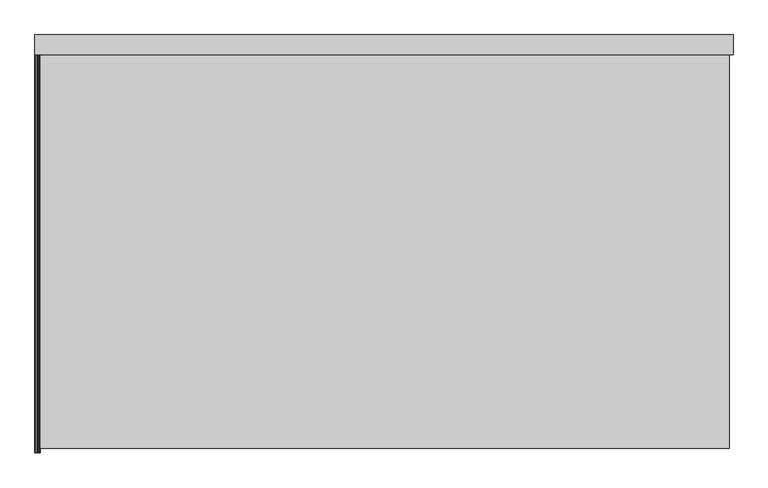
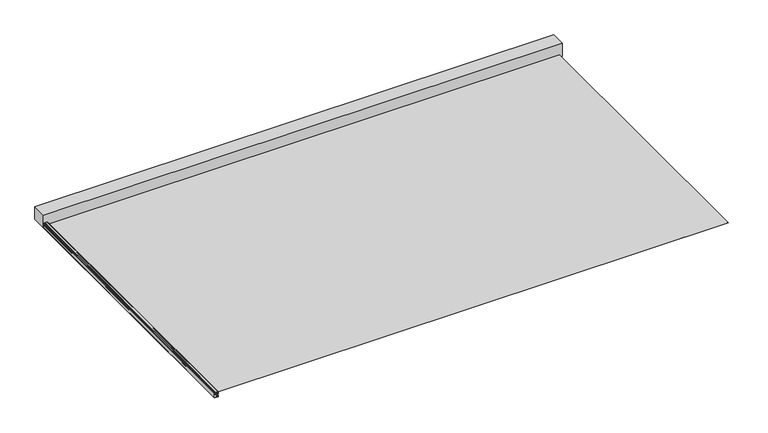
"""IFC4 building model written with IfcOpenShell, lengths in millimetres: proxy geometry, ZIP135 + 4 meter bred : ZIP135 + 4 meter bred."""

from ifc_helpers import new_model, si_unit, frame, origin, origin_with_axes, place, context, project, spatial, polyline, circle_curve, outline, extrude, source, transform, mapped, element, save
from ifc_brep_helpers import plane_surface, cylinder_surface, revolved_surface, advanced_brep


def generic_models_8a4777b7(model_context):
    return source(origin(), model_context, "Body", "SolidModel", [
        advanced_brep(
        [(-2472.6, 2.5, 31.4678714), (-2473.0769696, 2.5, 30.8178714), (-2472.6, 2.5, 30.1678714), (-2464.1023957, 2.5, 30.1678714), (-2463.1024072, 2.5, 31.1726628), (-2463.7529205, 2.5, 46.7031883), (-2465.6666067, 2.5, 48.5438844), (-2498.8706367, 2.5, 48.0351336), (-2499.8, 2.5, 47.0376315), (-2499.8, 2.5, 45.9678714), (-2498.5, 2.5, 45.3433716), (-2498.5, 2.5, 46.7579933), (-2480.6187174, 2.5, 47.4700414), (-2479.1649596, 2.5, 46.5616328), (-2478.4, 2.5, 46.9856568), (-2477.9003699, 2.5, 47.4844201), (-2471.3890908, 2.5, 47.418256), (-2468.8, 2.5, 46.5762226), (-2468.8, 2.5, 43.1361571), (-2468.8, 2.5, 39.6678714), (-2469.3, 2.5, 39.1678714), (-2478.9, 2.5, 39.1678714), (-2479.3769696, 2.5, 38.5178714), (-2478.9, 2.5, 37.8678714), (-2468.8, 2.5, 37.8678714), (-2468.8, 2.5, 31.9678714), (-2469.3, 2.5, 31.4678714), (-2472.6, 2857.0, 31.4678714), (-2469.3, 2857.0, 31.4678714), (-2468.8, 2857.0, 31.9678714), (-2468.8, 2857.0, 37.8678714), (-2478.9, 2857.0, 37.8678714), (-2479.3769696, 2857.0, 38.5178714), (-2478.9, 2857.0, 39.1678714), (-2469.3, 2857.0, 39.1678714), (-2468.8, 2857.0, 39.6678714), (-2468.8, 2857.0, 43.1361571), (-2468.8, 2857.0, 46.5762226), (-2471.3890908, 2857.0, 47.418256), (-2477.9003699, 2857.0, 47.4844201), (-2478.3999988, 2857.0, 46.9856568), (-2479.1649596, 2857.0, 46.5616328), (-2480.6187174, 2857.0, 47.4700414), (-2498.5, 2857.0, 46.7579933), (-2498.5, 2857.0, 45.3433716), (-2499.8, 2857.0, 45.9678714), (-2499.8, 2857.0, 47.0376315), (-2498.8706367, 2857.0, 48.0351336), (-2465.6666067, 2857.0, 48.5438844), (-2463.7529205, 2857.0, 46.7031883), (-2463.1024072, 2857.0, 31.1726628), (-2464.1023957, 2857.0, 30.1678714), (-2472.6, 2857.0, 30.1678714), (-2473.0769696, 2857.0, 30.8178714)],
        [
            (0, 1, circle_curve(frame((-2472.6, 2.5, 30.9678714), z_axis=(0.0, -1.0, 0.0), x_axis=(1.0, 0.0, 0.0)), 0.5)),
            (1, 2, circle_curve(frame((-2472.6, 2.5, 30.6678714), z_axis=(0.0, -1.0, 0.0), x_axis=(1.0, 0.0, 0.0)), 0.5)),
            (2, 3),
            (3, 4, circle_curve(frame((-2464.1023957, 2.5, 31.1678714), z_axis=(0.0, -1.0, 0.0), x_axis=(1.0, 0.0, 0.0)), 1.0)),
            (4, 5, circle_curve(frame((-2672.80625, 2.5, 30.1678714), z_axis=(0.0, -1.0, 0.0), x_axis=(1.0, 0.0, 0.0)), 209.70625)),
            (5, 6, circle_curve(frame((-2465.7466935, 2.5, 46.5454885), z_axis=(0.0, -1.0, 0.0), x_axis=(1.0, 0.0, 0.0)), 2.0)),
            (6, 7, circle_curve(frame((-2477.6796188, 2.5, -251.2154984), z_axis=(0.0, -1.0, 0.0), x_axis=(1.0, 0.0, 0.0)), 300.0)),
            (7, 8, circle_curve(frame((-2498.8, 2.5, 47.0376315), z_axis=(0.0, -1.0, 0.0), x_axis=(1.0, 0.0, 0.0)), 1.0)),
            (8, 9),
            (9, 10, circle_curve(frame((-2499.0, 2.5, 45.9678714), z_axis=(0.0, -1.0, 0.0), x_axis=(1.0, 0.0, 0.0)), 0.8)),
            (10, 11),
            (11, 12, circle_curve(frame((-2477.6796188, 2.5, -251.2154984), z_axis=(0.0, 1.0, 0.0), x_axis=(1.0, 0.0, 0.0)), 298.7)),
            (12, 13),
            (13, 14, circle_curve(frame((-2478.9, 2.5, 46.9856568), z_axis=(0.0, -1.0, 0.0), x_axis=(1.0, 0.0, 0.0)), 0.5)),
            (14, 15, circle_curve(frame((-2477.9000004, 2.5, 46.9844202), z_axis=(0.0, 1.0, 0.0), x_axis=(1.0, 0.0, 0.0)), 0.5)),
            (15, 16, circle_curve(frame((-2477.6796188, 2.5, -251.2154984), z_axis=(0.0, 1.0, 0.0), x_axis=(1.0, 0.0, 0.0)), 298.7)),
            (16, 17, circle_curve(frame((-2469.6, 2.5, 48.5178714), z_axis=(0.0, -1.0, 0.0), x_axis=(1.0, 0.0, 0.0)), 2.1)),
            (17, 18),
            (18, 19),
            (19, 20, circle_curve(frame((-2469.3, 2.5, 39.6678714), z_axis=(0.0, 1.0, 0.0), x_axis=(1.0, 0.0, 0.0)), 0.5)),
            (20, 21),
            (21, 22, circle_curve(frame((-2478.9, 2.5, 38.6678714), z_axis=(0.0, -1.0, 0.0), x_axis=(1.0, 0.0, 0.0)), 0.5)),
            (22, 23, circle_curve(frame((-2478.9, 2.5, 38.3678714), z_axis=(0.0, -1.0, 0.0), x_axis=(1.0, 0.0, 0.0)), 0.5)),
            (23, 24),
            (24, 25),
            (25, 26, circle_curve(frame((-2469.3, 2.5, 31.9678714), z_axis=(0.0, 1.0, 0.0), x_axis=(1.0, 0.0, 0.0)), 0.5)),
            (26, 0),
            (27, 28),
            (28, 29, circle_curve(frame((-2469.3, 2857.0, 31.9678714), z_axis=(0.0, -1.0, 0.0), x_axis=(1.0, 0.0, 0.0)), 0.5)),
            (29, 30),
            (30, 31),
            (31, 32, circle_curve(frame((-2478.9, 2857.0, 38.3678714), z_axis=(0.0, 1.0, 0.0), x_axis=(1.0, 0.0, 0.0)), 0.5)),
            (32, 33, circle_curve(frame((-2478.9, 2857.0, 38.6678714), z_axis=(0.0, 1.0, 0.0), x_axis=(1.0, 0.0, 0.0)), 0.5)),
            (33, 34),
            (34, 35, circle_curve(frame((-2469.3, 2857.0, 39.6678714), z_axis=(0.0, -1.0, 0.0), x_axis=(1.0, 0.0, 0.0)), 0.5)),
            (35, 36),
            (36, 37),
            (37, 38, circle_curve(frame((-2469.6, 2857.0, 48.5178714), z_axis=(0.0, 1.0, 0.0), x_axis=(1.0, 0.0, 0.0)), 2.1)),
            (38, 39, circle_curve(frame((-2477.6796188, 2857.0, -251.2154984), z_axis=(0.0, -1.0, 0.0), x_axis=(1.0, 0.0, 0.0)), 298.7)),
            (39, 40, circle_curve(frame((-2477.9000004, 2857.0, 46.9844202), z_axis=(0.0, -1.0, 0.0), x_axis=(1.0, 0.0, 0.0)), 0.5)),
            (40, 41, circle_curve(frame((-2478.9, 2857.0, 46.9856568), z_axis=(0.0, 1.0, 0.0), x_axis=(1.0, 0.0, 0.0)), 0.5)),
            (41, 42),
            (42, 43, circle_curve(frame((-2477.6796188, 2857.0, -251.2154984), z_axis=(0.0, -1.0, 0.0), x_axis=(1.0, 0.0, 0.0)), 298.7)),
            (43, 44),
            (44, 45, circle_curve(frame((-2499.0, 2857.0, 45.9678714), z_axis=(0.0, 1.0, 0.0), x_axis=(1.0, 0.0, 0.0)), 0.8)),
            (45, 46),
            (46, 47, circle_curve(frame((-2498.8, 2857.0, 47.0376315), z_axis=(0.0, 1.0, 0.0), x_axis=(1.0, 0.0, 0.0)), 1.0)),
            (47, 48, circle_curve(frame((-2477.6796188, 2857.0, -251.2154984), z_axis=(0.0, 1.0, 0.0), x_axis=(1.0, 0.0, 0.0)), 300.0)),
            (48, 49, circle_curve(frame((-2465.7466935, 2857.0, 46.5454885), z_axis=(0.0, 1.0, 0.0), x_axis=(1.0, 0.0, 0.0)), 2.0)),
            (49, 50, circle_curve(frame((-2672.80625, 2857.0, 30.1678714), z_axis=(0.0, 1.0, 0.0), x_axis=(1.0, 0.0, 0.0)), 209.70625)),
            (50, 51, circle_curve(frame((-2464.1023957, 2857.0, 31.1678714), z_axis=(0.0, 1.0, 0.0), x_axis=(1.0, 0.0, 0.0)), 1.0)),
            (51, 52),
            (52, 53, circle_curve(frame((-2472.6, 2857.0, 30.6678714), z_axis=(0.0, 1.0, 0.0), x_axis=(1.0, 0.0, 0.0)), 0.5)),
            (53, 27, circle_curve(frame((-2472.6, 2857.0, 30.9678714), z_axis=(0.0, 1.0, 0.0), x_axis=(1.0, 0.0, 0.0)), 0.5)),
            (26, 28),
            (27, 0),
            (25, 29),
            (24, 30),
            (23, 31),
            (22, 32),
            (21, 33),
            (20, 34),
            (19, 35),
            (18, 36),
            (17, 37),
            (16, 38),
            (15, 39),
            (14, 40),
            (13, 41),
            (12, 42),
            (11, 43),
            (10, 44),
            (9, 45),
            (8, 46),
            (7, 47),
            (6, 48),
            (5, 49),
            (4, 50),
            (3, 51),
            (2, 52),
            (1, 53),
        ],
        [
            plane_surface(frame((-2472.1, 2.5, 30.9678714), z_axis=(0.0, -1.0, 0.0), x_axis=(0.0, 0.0, 1.0))),
            plane_surface(frame((-2472.1, 2857.0, 30.9678714), z_axis=(0.0, 1.0, 0.0), x_axis=(0.0, 0.0, -1.0))),
            plane_surface(frame((-2469.3, 2.5, 31.4678714), z_axis=(0.0, 0.0, 1.0), x_axis=(0.0, 1.0, 0.0))),
            revolved_surface(polyline([(-2468.8, 2857.0, 31.9678714), (-2468.8, 2.5, 31.9678714)]), (-2469.3, 2857.0, 31.9678714), (0.0, 1.0, 0.0)),
            plane_surface(frame((-2468.8, 2.5, 37.8678714), z_axis=(-1.0, 0.0, 0.0), x_axis=(0.0, 1.0, 0.0))),
            plane_surface(frame((-2478.9, 2.5, 37.8678714), z_axis=(0.0, 0.0, -1.0), x_axis=(0.0, 1.0, 0.0))),
            cylinder_surface(frame((-2478.9, 2857.0, 38.3678714), z_axis=(0.0, -1.0, 0.0), x_axis=(1.0, 0.0, 0.0)), 0.5),
            cylinder_surface(frame((-2478.9, 2857.0, 38.6678714), z_axis=(0.0, -1.0, 0.0), x_axis=(1.0, 0.0, 0.0)), 0.5),
            plane_surface(frame((-2469.3, 2.5, 39.1678714), z_axis=(0.0, 0.0, 1.0), x_axis=(0.0, 1.0, 0.0))),
            revolved_surface(polyline([(-2468.8, 2857.0, 39.6678714), (-2468.8, 2.5, 39.6678714)]), (-2469.3, 2857.0, 39.6678714), (0.0, 1.0, 0.0)),
            plane_surface(frame((-2468.8, 2.5, 43.1361571), z_axis=(-1.0, 0.0, 0.0), x_axis=(0.0, 1.0, 0.0))),
            plane_surface(frame((-2468.8, 2.5, 46.5762226), z_axis=(-1.0, 0.0, 0.0), x_axis=(0.0, 1.0, 0.0))),
            cylinder_surface(frame((-2469.6, 2857.0, 48.5178714), z_axis=(0.0, -1.0, 0.0), x_axis=(1.0, 0.0, 0.0)), 2.1),
            revolved_surface(polyline([(-2178.9796188, 2857.0, -251.2154984), (-2178.9796188, 2.5, -251.2154984)]), (-2477.6796188, 2857.0, -251.2154984), (0.0, 1.0, 0.0)),
            revolved_surface(polyline([(-2477.4000004, 2857.0, 46.9844202), (-2477.4000004, 2.5, 46.9844202)]), (-2477.9000004, 2857.0, 46.9844202), (0.0, 1.0, 0.0)),
            cylinder_surface(frame((-2478.9, 2857.0, 46.9856568), z_axis=(0.0, -1.0, 0.0), x_axis=(1.0, 0.0, 0.0)), 0.5),
            plane_surface(frame((-2480.6187174, 2.5, 47.4700414), z_axis=(-0.529919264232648, 0.0, -0.848048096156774), x_axis=(0.0, 1.0, 0.0))),
            plane_surface(frame((-2498.5, 2.5, 45.3433716), z_axis=(1.0, 0.0, 0.0), x_axis=(0.0, 1.0, 0.0))),
            cylinder_surface(frame((-2499.0, 2857.0, 45.9678714), z_axis=(0.0, -1.0, 0.0), x_axis=(1.0, 0.0, 0.0)), 0.8),
            plane_surface(frame((-2499.8, 2.5, 47.0376315), z_axis=(-1.0, 0.0, 0.0), x_axis=(0.0, 1.0, 0.0))),
            cylinder_surface(frame((-2498.8, 2857.0, 47.0376315), z_axis=(0.0, -1.0, 0.0), x_axis=(1.0, 0.0, 0.0)), 1.0),
            cylinder_surface(frame((-2477.6796188, 2857.0, -251.2154984), z_axis=(0.0, -1.0, 0.0), x_axis=(1.0, 0.0, 0.0)), 300.0),
            cylinder_surface(frame((-2465.7466935, 2857.0, 46.5454885), z_axis=(0.0, -1.0, 0.0), x_axis=(1.0, 0.0, 0.0)), 2.0),
            cylinder_surface(frame((-2672.80625, 2857.0, 30.1678714), z_axis=(0.0, -1.0, 0.0), x_axis=(1.0, 0.0, 0.0)), 209.70625),
            cylinder_surface(frame((-2464.1023957, 2857.0, 31.1678714), z_axis=(0.0, -1.0, 0.0), x_axis=(1.0, 0.0, 0.0)), 1.0),
            plane_surface(frame((-2472.6, 2.5, 30.1678714), z_axis=(0.0, 0.0, -1.0), x_axis=(0.0, 1.0, 0.0))),
            cylinder_surface(frame((-2472.6, 2857.0, 30.6678714), z_axis=(0.0, -1.0, 0.0), x_axis=(1.0, 0.0, 0.0)), 0.5),
            cylinder_surface(frame((-2472.6, 2857.0, 30.9678714), z_axis=(0.0, -1.0, 0.0), x_axis=(1.0, 0.0, 0.0)), 0.5),
        ],
        [
            (0, [[1, 2, 3, 4, 5, 6, 7, 8, 9, 10, 11, 12, 13, 14, 15, 16, 17, 18, 19, 20, 21, 22, 23, 24, 25, 26, 27]]),
            (1, [[28, 29, 30, 31, 32, 33, 34, 35, 36, 37, 38, 39, 40, 41, 42, 43, 44, 45, 46, 47, 48, 49, 50, 51, 52, 53, 54]]),
            (2, [[-27, 55, -28, 56]]),
            (3, [[-26, 57, -29, -55]]),
            (4, [[-25, 58, -30, -57]]),
            (5, [[-24, 59, -31, -58]]),
            (6, [[-23, 60, -32, -59]]),
            (7, [[-22, 61, -33, -60]]),
            (8, [[-21, 62, -34, -61]]),
            (9, [[-20, 63, -35, -62]]),
            (10, [[-19, 64, -36, -63]]),
            (11, [[-18, 65, -37, -64]]),
            (12, [[-17, 66, -38, -65]]),
            (13, [[-16, 67, -39, -66]]),
            (14, [[-15, 68, -40, -67]]),
            (15, [[-14, 69, -41, -68]]),
            (16, [[-13, 70, -42, -69]]),
            (13, [[-12, 71, -43, -70]]),
            (17, [[-11, 72, -44, -71]]),
            (18, [[-10, 73, -45, -72]]),
            (19, [[-9, 74, -46, -73]]),
            (20, [[-8, 75, -47, -74]]),
            (21, [[-7, 76, -48, -75]]),
            (22, [[-6, 77, -49, -76]]),
            (23, [[-5, 78, -50, -77]]),
            (24, [[-4, 79, -51, -78]]),
            (25, [[-3, 80, -52, -79]]),
            (26, [[-2, 81, -53, -80]]),
            (27, [[-1, -56, -54, -81]]),
        ],
    ),
        advanced_brep(
        [(-2462.8295553, 2.5, 13.8913237), (-2463.8, 2.5, 14.65), (-2472.3, 2.5, 14.65), (-2472.7769696, 2.5, 14.0), (-2472.3, 2.5, 13.35), (-2469.0, 2.5, 13.35), (-2468.5, 2.5, 12.85), (-2468.5, 2.5, 8.2), (-2469.5, 2.5, 7.2), (-2483.8, 2.5, 7.2), (-2483.8, 2.5, 20.6143806), (-2483.8, 2.5, 36.6), (-2482.8, 2.5, 37.6), (-2480.7, 2.5, 37.6), (-2479.724617, 2.5, 38.3794826), (-2479.724617, 2.5, 39.3), (-2469.3, 2.5, 39.3), (-2468.8101021, 2.5, 40.5), (-2478.6, 2.5, 40.5), (-2479.6, 2.5, 41.5), (-2479.6, 2.5, 43.7), (-2478.6, 2.5, 44.7), (-2469.3, 2.5, 44.7), (-2468.8101021, 2.5, 45.9), (-2479.1, 2.5, 45.9), (-2481.077761, 2.5, 43.6025751), (-2481.803125, 2.5, 43.0671573), (-2484.8151163, 2.5, 42.5032419), (-2484.0348837, 2.5, 41.727847), (-2481.7801617, 2.5, 41.742787), (-2481.1730561, 2.5, 41.1478729), (-2481.1622989, 2.5, 40.0872673), (-2481.757213, 2.5, 39.4801617), (-2484.0348837, 2.5, 39.472153), (-2484.479504, 2.5, 38.5371628), (-2485.2, 2.5, 37.0), (-2485.2, 2.5, 29.1), (-2490.3934914, 2.5, 29.1), (-2498.1, 2.5, 29.1), (-2498.6, 2.5, 29.6), (-2498.6, 2.5, 42.35), (-2498.1, 2.5, 42.85), (-2496.5, 2.5, 42.85), (-2496.0, 2.5, 43.35), (-2496.0, 2.5, 44.35), (-2497.6, 2.5, 46.75), (-2497.6, 2.5, 45.05), (-2500.0, 2.5, 45.05), (-2500.0, 2.5, 2.0), (-2498.0, 2.5, 0.0), (-2491.3611718, 2.5, 0.0), (-2480.55, 2.5, 0.0), (-2480.55, 2.5, 1.5), (-2483.6, 2.5, 1.5), (-2484.1, 2.5, 2.0), (-2484.1, 2.5, 4.8), (-2483.1, 2.5, 5.8), (-2469.5, 2.5, 5.8), (-2468.5, 2.5, 4.8), (-2468.5, 2.5, 1.5), (-2472.05, 2.5, 1.5), (-2472.05, 2.5, 0.0), (-2465.3628876, 2.5, 0.0), (-2463.3764512, 2.5, 1.7674699), (-2462.8295553, 2857.0, 13.8913237), (-2463.3764512, 2857.0, 1.7674699), (-2465.3628876, 2857.0, 0.0), (-2472.05, 2857.0, 0.0), (-2472.05, 2857.0, 1.5), (-2468.5, 2857.0, 1.5), (-2468.5, 2857.0, 4.8), (-2469.5, 2857.0, 5.8), (-2483.1, 2857.0, 5.8), (-2484.1, 2857.0, 4.8), (-2484.1, 2857.0, 2.0), (-2483.6, 2857.0, 1.5), (-2480.55, 2857.0, 1.5), (-2480.55, 2857.0, 0.0), (-2491.3611718, 2857.0, 0.0), (-2498.0, 2857.0, 0.0), (-2500.0, 2857.0, 2.0), (-2500.0, 2857.0, 45.05), (-2497.6, 2857.0, 45.05), (-2497.6, 2857.0, 46.75), (-2496.0, 2857.0, 44.35), (-2496.0, 2857.0, 43.35), (-2496.5, 2857.0, 42.85), (-2498.1, 2857.0, 42.85), (-2498.6, 2857.0, 42.35), (-2498.6, 2857.0, 29.6), (-2498.1, 2857.0, 29.1), (-2490.3934914, 2857.0, 29.1), (-2485.2, 2857.0, 29.1), (-2485.2, 2857.0, 37.0), (-2484.479504, 2857.0, 38.5371628), (-2484.0348837, 2857.0, 39.472153), (-2481.757213, 2857.0, 39.4801617), (-2481.1622989, 2857.0, 40.0872673), (-2481.1730561, 2857.0, 41.1478729), (-2481.7801617, 2857.0, 41.742787), (-2484.0348837, 2857.0, 41.727847), (-2484.8151163, 2857.0, 42.5032419), (-2481.803125, 2857.0, 43.0671573), (-2481.1055598, 2857.0, 43.5983945), (-2479.1, 2857.0, 45.9), (-2468.8101021, 2857.0, 45.9), (-2469.3, 2857.0, 44.7), (-2478.6, 2857.0, 44.7), (-2479.6, 2857.0, 43.7), (-2479.6, 2857.0, 41.5), (-2478.6, 2857.0, 40.5), (-2468.8101021, 2857.0, 40.5), (-2469.3, 2857.0, 39.3), (-2479.724617, 2857.0, 39.3), (-2479.724617, 2857.0, 38.3794826), (-2480.7, 2857.0, 37.6), (-2482.8, 2857.0, 37.6), (-2483.8, 2857.0, 36.6), (-2483.8, 2857.0, 20.6143806), (-2483.8, 2857.0, 7.2), (-2469.5, 2857.0, 7.2), (-2468.5, 2857.0, 8.2), (-2468.5, 2857.0, 12.85), (-2469.0, 2857.0, 13.35), (-2472.3, 2857.0, 13.35), (-2472.7769696, 2857.0, 14.0), (-2472.3, 2857.0, 14.65), (-2463.8, 2857.0, 14.65)],
        [
            (0, 1, circle_curve(frame((-2463.8, 2.5, 13.65), z_axis=(0.0, -1.0, 0.0), x_axis=(1.0, 0.0, 0.0)), 1.0)),
            (1, 2),
            (2, 3, circle_curve(frame((-2472.3, 2.5, 14.15), z_axis=(0.0, -1.0, 0.0), x_axis=(1.0, 0.0, 0.0)), 0.5)),
            (3, 4, circle_curve(frame((-2472.3, 2.5, 13.85), z_axis=(0.0, -1.0, 0.0), x_axis=(1.0, 0.0, 0.0)), 0.5)),
            (4, 5),
            (5, 6, circle_curve(frame((-2469.0, 2.5, 12.85), z_axis=(0.0, 1.0, 0.0), x_axis=(1.0, 0.0, 0.0)), 0.5)),
            (6, 7),
            (7, 8, circle_curve(frame((-2469.5, 2.5, 8.2), z_axis=(0.0, 1.0, 0.0), x_axis=(1.0, 0.0, 0.0)), 1.0)),
            (8, 9),
            (9, 10),
            (10, 11),
            (11, 12, circle_curve(frame((-2482.8, 2.5, 36.6), z_axis=(0.0, 1.0, 0.0), x_axis=(1.0, 0.0, 0.0)), 1.0)),
            (12, 13),
            (13, 14, circle_curve(frame((-2480.7, 2.5, 38.6), z_axis=(0.0, -1.0, 0.0), x_axis=(1.0, 0.0, 0.0)), 1.0)),
            (14, 15),
            (15, 16),
            (16, 17, circle_curve(frame((-2469.3, 2.5, 40.0), z_axis=(0.0, -1.0, 0.0), x_axis=(1.0, 0.0, 0.0)), 0.7)),
            (17, 18),
            (18, 19, circle_curve(frame((-2478.6, 2.5, 41.5), z_axis=(0.0, 1.0, 0.0), x_axis=(1.0, 0.0, 0.0)), 1.0)),
            (19, 20),
            (20, 21, circle_curve(frame((-2478.6, 2.5, 43.7), z_axis=(0.0, 1.0, 0.0), x_axis=(1.0, 0.0, 0.0)), 1.0)),
            (21, 22),
            (22, 23, circle_curve(frame((-2469.3, 2.5, 45.4), z_axis=(0.0, -1.0, 0.0), x_axis=(1.0, 0.0, 0.0)), 0.7)),
            (23, 24),
            (24, 25, circle_curve(frame((-2479.1, 2.5, 43.9), z_axis=(0.0, -1.0, 0.0), x_axis=(1.0, 0.0, 0.0)), 2.0)),
            (25, 26, circle_curve(frame((-2481.6, 2.5, 43.5240383), z_axis=(0.0, 1.0, 0.0), x_axis=(1.0, 0.0, 0.0)), 0.5)),
            (26, 27, circle_curve(frame((-2482.9, 2.5, 40.6), z_axis=(0.0, -1.0, 0.0), x_axis=(1.0, 0.0, 0.0)), 2.7)),
            (27, 28, circle_curve(frame((-2484.425, 2.5, 42.1155445), z_axis=(0.0, -1.0, 0.0), x_axis=(1.0, 0.0, 0.0)), 0.55)),
            (28, 29, circle_curve(frame((-2482.9, 2.5, 40.6), z_axis=(0.0, 1.0, 0.0), x_axis=(1.0, 0.0, 0.0)), 1.6)),
            (29, 30),
            (30, 31, circle_curve(frame((-2481.6979803, 2.5, 40.6121915), z_axis=(0.0, 1.0, 0.0), x_axis=(1.0, 0.0, 0.0)), 0.75)),
            (31, 32),
            (32, 33, circle_curve(frame((-2482.9, 2.5, 40.6), z_axis=(0.0, 1.0, 0.0), x_axis=(1.0, 0.0, 0.0)), 1.6)),
            (33, 34, circle_curve(frame((-2484.425, 2.5, 39.0844555), z_axis=(0.0, -1.0, 0.0), x_axis=(1.0, 0.0, 0.0)), 0.55)),
            (34, 35, circle_curve(frame((-2483.2, 2.5, 37.0), z_axis=(0.0, -1.0, 0.0), x_axis=(1.0, 0.0, 0.0)), 2.0)),
            (35, 36),
            (36, 37),
            (37, 38),
            (38, 39, circle_curve(frame((-2498.1, 2.5, 29.6), z_axis=(0.0, 1.0, 0.0), x_axis=(1.0, 0.0, 0.0)), 0.5)),
            (39, 40),
            (40, 41, circle_curve(frame((-2498.1, 2.5, 42.35), z_axis=(0.0, 1.0, 0.0), x_axis=(1.0, 0.0, 0.0)), 0.5)),
            (41, 42),
            (42, 43, circle_curve(frame((-2496.5, 2.5, 43.35), z_axis=(0.0, -1.0, 0.0), x_axis=(1.0, 0.0, 0.0)), 0.5)),
            (43, 44),
            (44, 45),
            (45, 46),
            (46, 47, circle_curve(frame((-2498.8, 2.5, 45.55), z_axis=(0.0, 1.0, 0.0), x_axis=(1.0, 0.0, 0.0)), 1.3)),
            (47, 48),
            (48, 49, circle_curve(frame((-2498.0, 2.5, 2.0), z_axis=(0.0, -1.0, 0.0), x_axis=(1.0, 0.0, 0.0)), 2.0)),
            (49, 50),
            (50, 51),
            (51, 52),
            (52, 53),
            (53, 54, circle_curve(frame((-2483.6, 2.5, 2.0), z_axis=(0.0, 1.0, 0.0), x_axis=(1.0, 0.0, 0.0)), 0.5)),
            (54, 55),
            (55, 56, circle_curve(frame((-2483.1, 2.5, 4.8), z_axis=(0.0, 1.0, 0.0), x_axis=(1.0, 0.0, 0.0)), 1.0)),
            (56, 57),
            (57, 58, circle_curve(frame((-2469.5, 2.5, 4.8), z_axis=(0.0, 1.0, 0.0), x_axis=(1.0, 0.0, 0.0)), 1.0)),
            (58, 59),
            (59, 60),
            (60, 61),
            (61, 62),
            (62, 63, circle_curve(frame((-2465.3628876, 2.5, 2.0), z_axis=(0.0, -1.0, 0.0), x_axis=(1.0, 0.0, 0.0)), 2.0)),
            (63, 0, circle_curve(frame((-2547.8, 2.5, 11.65), z_axis=(0.0, -1.0, 0.0), x_axis=(1.0, 0.0, 0.0)), 85.0)),
            (64, 65, circle_curve(frame((-2547.8, 2857.0, 11.65), z_axis=(0.0, 1.0, 0.0), x_axis=(1.0, 0.0, 0.0)), 85.0)),
            (65, 66, circle_curve(frame((-2465.3628876, 2857.0, 2.0), z_axis=(0.0, 1.0, 0.0), x_axis=(1.0, 0.0, 0.0)), 2.0)),
            (66, 67),
            (67, 68),
            (68, 69),
            (69, 70),
            (70, 71, circle_curve(frame((-2469.5, 2857.0, 4.8), z_axis=(0.0, -1.0, 0.0), x_axis=(1.0, 0.0, 0.0)), 1.0)),
            (71, 72),
            (72, 73, circle_curve(frame((-2483.1, 2857.0, 4.8), z_axis=(0.0, -1.0, 0.0), x_axis=(1.0, 0.0, 0.0)), 1.0)),
            (73, 74),
            (74, 75, circle_curve(frame((-2483.6, 2857.0, 2.0), z_axis=(0.0, -1.0, 0.0), x_axis=(1.0, 0.0, 0.0)), 0.5)),
            (75, 76),
            (76, 77),
            (77, 78),
            (78, 79),
            (79, 80, circle_curve(frame((-2498.0, 2857.0, 2.0), z_axis=(0.0, 1.0, 0.0), x_axis=(1.0, 0.0, 0.0)), 2.0)),
            (80, 81),
            (81, 82, circle_curve(frame((-2498.8, 2857.0, 45.55), z_axis=(0.0, -1.0, 0.0), x_axis=(1.0, 0.0, 0.0)), 1.3)),
            (82, 83),
            (83, 84),
            (84, 85),
            (85, 86, circle_curve(frame((-2496.5, 2857.0, 43.35), z_axis=(0.0, 1.0, 0.0), x_axis=(1.0, 0.0, 0.0)), 0.5)),
            (86, 87),
            (87, 88, circle_curve(frame((-2498.1, 2857.0, 42.35), z_axis=(0.0, -1.0, 0.0), x_axis=(1.0, 0.0, 0.0)), 0.5)),
            (88, 89),
            (89, 90, circle_curve(frame((-2498.1, 2857.0, 29.6), z_axis=(0.0, -1.0, 0.0), x_axis=(1.0, 0.0, 0.0)), 0.5)),
            (90, 91),
            (91, 92),
            (92, 93),
            (93, 94, circle_curve(frame((-2483.2, 2857.0, 37.0), z_axis=(0.0, 1.0, 0.0), x_axis=(1.0, 0.0, 0.0)), 2.0)),
            (94, 95, circle_curve(frame((-2484.425, 2857.0, 39.0844555), z_axis=(0.0, 1.0, 0.0), x_axis=(1.0, 0.0, 0.0)), 0.55)),
            (95, 96, circle_curve(frame((-2482.9, 2857.0, 40.6), z_axis=(0.0, -1.0, 0.0), x_axis=(1.0, 0.0, 0.0)), 1.6)),
            (96, 97),
            (97, 98, circle_curve(frame((-2481.6979803, 2857.0, 40.6121915), z_axis=(0.0, -1.0, 0.0), x_axis=(1.0, 0.0, 0.0)), 0.75)),
            (98, 99),
            (99, 100, circle_curve(frame((-2482.9, 2857.0, 40.6), z_axis=(0.0, -1.0, 0.0), x_axis=(1.0, 0.0, 0.0)), 1.6)),
            (100, 101, circle_curve(frame((-2484.425, 2857.0, 42.1155445), z_axis=(0.0, 1.0, 0.0), x_axis=(1.0, 0.0, 0.0)), 0.55)),
            (101, 102, circle_curve(frame((-2482.9, 2857.0, 40.6), z_axis=(0.0, 1.0, 0.0), x_axis=(1.0, 0.0, 0.0)), 2.7)),
            (102, 103, circle_curve(frame((-2481.6, 2857.0, 43.5240383), z_axis=(0.0, -1.0, 0.0), x_axis=(1.0, 0.0, 0.0)), 0.5)),
            (103, 104, circle_curve(frame((-2479.1, 2857.0, 43.9), z_axis=(0.0, 1.0, 0.0), x_axis=(1.0, 0.0, 0.0)), 2.0)),
            (104, 105),
            (105, 106, circle_curve(frame((-2469.3, 2857.0, 45.4), z_axis=(0.0, 1.0, 0.0), x_axis=(1.0, 0.0, 0.0)), 0.7)),
            (106, 107),
            (107, 108, circle_curve(frame((-2478.6, 2857.0, 43.7), z_axis=(0.0, -1.0, 0.0), x_axis=(1.0, 0.0, 0.0)), 1.0)),
            (108, 109),
            (109, 110, circle_curve(frame((-2478.6, 2857.0, 41.5), z_axis=(0.0, -1.0, 0.0), x_axis=(1.0, 0.0, 0.0)), 1.0)),
            (110, 111),
            (111, 112, circle_curve(frame((-2469.3, 2857.0, 40.0), z_axis=(0.0, 1.0, 0.0), x_axis=(1.0, 0.0, 0.0)), 0.7)),
            (112, 113),
            (113, 114),
            (114, 115, circle_curve(frame((-2480.7, 2857.0, 38.6), z_axis=(0.0, 1.0, 0.0), x_axis=(1.0, 0.0, 0.0)), 1.0)),
            (115, 116),
            (116, 117, circle_curve(frame((-2482.8, 2857.0, 36.6), z_axis=(0.0, -1.0, 0.0), x_axis=(1.0, 0.0, 0.0)), 1.0)),
            (117, 118),
            (118, 119),
            (119, 120),
            (120, 121, circle_curve(frame((-2469.5, 2857.0, 8.2), z_axis=(0.0, -1.0, 0.0), x_axis=(1.0, 0.0, 0.0)), 1.0)),
            (121, 122),
            (122, 123, circle_curve(frame((-2469.0, 2857.0, 12.85), z_axis=(0.0, -1.0, 0.0), x_axis=(1.0, 0.0, 0.0)), 0.5)),
            (123, 124),
            (124, 125, circle_curve(frame((-2472.3, 2857.0, 13.85), z_axis=(0.0, 1.0, 0.0), x_axis=(1.0, 0.0, 0.0)), 0.5)),
            (125, 126, circle_curve(frame((-2472.3, 2857.0, 14.15), z_axis=(0.0, 1.0, 0.0), x_axis=(1.0, 0.0, 0.0)), 0.5)),
            (126, 127),
            (127, 64, circle_curve(frame((-2463.8, 2857.0, 13.65), z_axis=(0.0, 1.0, 0.0), x_axis=(1.0, 0.0, 0.0)), 1.0)),
            (63, 65),
            (64, 0),
            (62, 66),
            (61, 67),
            (60, 68),
            (59, 69),
            (58, 70),
            (57, 71),
            (56, 72),
            (55, 73),
            (54, 74),
            (53, 75),
            (52, 76),
            (51, 77),
            (50, 78),
            (49, 79),
            (48, 80),
            (47, 81),
            (46, 82),
            (45, 83),
            (44, 84),
            (43, 85),
            (42, 86),
            (41, 87),
            (40, 88),
            (39, 89),
            (38, 90),
            (37, 91),
            (36, 92),
            (35, 93),
            (34, 94),
            (33, 95),
            (32, 96),
            (31, 97),
            (30, 98),
            (29, 99),
            (28, 100),
            (27, 101),
            (26, 102),
            (25, 103),
            (24, 104),
            (23, 105),
            (22, 106),
            (21, 107),
            (20, 108),
            (19, 109),
            (18, 110),
            (17, 111),
            (16, 112),
            (15, 113),
            (14, 114),
            (13, 115),
            (12, 116),
            (11, 117),
            (10, 118),
            (9, 119),
            (8, 120),
            (7, 121),
            (6, 122),
            (5, 123),
            (4, 124),
            (3, 125),
            (2, 126),
            (1, 127),
        ],
        [
            plane_surface(frame((-2462.8, 2.5, 13.65), z_axis=(0.0, -1.0, 0.0), x_axis=(0.0, 0.0, 1.0))),
            plane_surface(frame((-2462.8, 2857.0, 13.65), z_axis=(0.0, 1.0, 0.0), x_axis=(0.0, 0.0, -1.0))),
            cylinder_surface(frame((-2547.8, 2857.0, 11.65), z_axis=(0.0, -1.0, 0.0), x_axis=(1.0, 0.0, 0.0)), 85.0),
            cylinder_surface(frame((-2465.3628876, 2857.0, 2.0), z_axis=(0.0, -1.0, 0.0), x_axis=(1.0, 0.0, 0.0)), 2.0),
            plane_surface(frame((-2472.05, 2.5, 0.0), z_axis=(0.0, 0.0, -1.0), x_axis=(0.0, 1.0, 0.0))),
            plane_surface(frame((-2472.05, 2.5, 1.5), z_axis=(-1.0, 0.0, 0.0), x_axis=(0.0, 1.0, 0.0))),
            plane_surface(frame((-2468.5, 2.5, 1.5), z_axis=(0.0, 0.0, 1.0), x_axis=(0.0, 1.0, 0.0))),
            plane_surface(frame((-2468.5, 2.5, 4.8), z_axis=(-1.0, 0.0, 0.0), x_axis=(0.0, 1.0, 0.0))),
            revolved_surface(polyline([(-2468.5, 2857.0, 4.8), (-2468.5, 2.5, 4.8)]), (-2469.5, 2857.0, 4.8), (0.0, 1.0, 0.0)),
            plane_surface(frame((-2483.1, 2.5, 5.8), z_axis=(0.0, 0.0, -1.0), x_axis=(0.0, 1.0, 0.0))),
            revolved_surface(polyline([(-2482.1, 2857.0, 4.8), (-2482.1, 2.5, 4.8)]), (-2483.1, 2857.0, 4.8), (0.0, 1.0, 0.0)),
            plane_surface(frame((-2484.1, 2.5, 2.0), z_axis=(1.0, 0.0, 0.0), x_axis=(0.0, 1.0, 0.0))),
            revolved_surface(polyline([(-2483.1, 2857.0, 2.0), (-2483.1, 2.5, 2.0)]), (-2483.6, 2857.0, 2.0), (0.0, 1.0, 0.0)),
            plane_surface(frame((-2480.55, 2.5, 1.5), z_axis=(0.0, 0.0, 1.0), x_axis=(0.0, 1.0, 0.0))),
            plane_surface(frame((-2480.55, 2.5, 0.0), z_axis=(1.0, 0.0, 0.0), x_axis=(0.0, 1.0, 0.0))),
            plane_surface(frame((-2491.3611718, 2.5, 0.0), z_axis=(0.0, 0.0, -1.0), x_axis=(0.0, 1.0, 0.0))),
            plane_surface(frame((-2498.0, 2.5, 0.0), z_axis=(0.0, 0.0, -1.0), x_axis=(0.0, 1.0, 0.0))),
            cylinder_surface(frame((-2498.0, 2857.0, 2.0), z_axis=(0.0, -1.0, 0.0), x_axis=(1.0, 0.0, 0.0)), 2.0),
            plane_surface(frame((-2500.0, 2.5, 45.05), z_axis=(-1.0, 0.0, 0.0), x_axis=(0.0, 1.0, 0.0))),
            revolved_surface(polyline([(-2497.5, 2857.0, 45.55), (-2497.5, 2.5, 45.55)]), (-2498.8, 2857.0, 45.55), (0.0, 1.0, 0.0)),
            plane_surface(frame((-2497.6, 2.5, 46.75), z_axis=(-1.0, 0.0, 0.0), x_axis=(0.0, 1.0, 0.0))),
            plane_surface(frame((-2496.0, 2.5, 44.35), z_axis=(0.8320502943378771, 0.0, 0.5547001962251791), x_axis=(0.0, 1.0, 0.0))),
            plane_surface(frame((-2496.0, 2.5, 43.35), z_axis=(1.0, 0.0, 0.0), x_axis=(0.0, 1.0, 0.0))),
            cylinder_surface(frame((-2496.5, 2857.0, 43.35), z_axis=(0.0, -1.0, 0.0), x_axis=(1.0, 0.0, 0.0)), 0.5),
            plane_surface(frame((-2498.1, 2.5, 42.85), z_axis=(0.0, 0.0, -1.0), x_axis=(0.0, 1.0, 0.0))),
            revolved_surface(polyline([(-2497.6, 2857.0, 42.35), (-2497.6, 2.5, 42.35)]), (-2498.1, 2857.0, 42.35), (0.0, 1.0, 0.0)),
            plane_surface(frame((-2498.6, 2.5, 29.6), z_axis=(1.0, 0.0, 0.0), x_axis=(0.0, 1.0, 0.0))),
            revolved_surface(polyline([(-2497.6, 2857.0, 29.6), (-2497.6, 2.5, 29.6)]), (-2498.1, 2857.0, 29.6), (0.0, 1.0, 0.0)),
            plane_surface(frame((-2490.3934914, 2.5, 29.1), z_axis=(0.0, 0.0, 1.0), x_axis=(0.0, 1.0, 0.0))),
            plane_surface(frame((-2485.2, 2.5, 29.1), z_axis=(0.0, 0.0, 1.0), x_axis=(0.0, 1.0, 0.0))),
            plane_surface(frame((-2485.2, 2.5, 37.0), z_axis=(-1.0, 0.0, 0.0), x_axis=(0.0, 1.0, 0.0))),
            cylinder_surface(frame((-2483.2, 2857.0, 37.0), z_axis=(0.0, -1.0, 0.0), x_axis=(1.0, 0.0, 0.0)), 2.0),
            cylinder_surface(frame((-2484.425, 2857.0, 39.0844555), z_axis=(0.0, -1.0, 0.0), x_axis=(1.0, 0.0, 0.0)), 0.55),
            revolved_surface(polyline([(-2481.3, 2857.0, 40.6), (-2481.3, 2.5, 40.6)]), (-2482.9, 2857.0, 40.6), (0.0, 1.0, 0.0)),
            plane_surface(frame((-2481.1622989, 2.5, 40.0872673), z_axis=(-0.7142418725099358, 0.0, 0.6998989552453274), x_axis=(0.0, 1.0, 0.0))),
            revolved_surface(polyline([(-2480.9479803, 2857.0, 40.6121915), (-2480.9479803, 2.5, 40.6121915)]), (-2481.6979803, 2857.0, 40.6121915), (0.0, 1.0, 0.0)),
            plane_surface(frame((-2481.7801617, 2.5, 41.742787), z_axis=(-0.6998989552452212, 0.0, -0.7142418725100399), x_axis=(0.0, 1.0, 0.0))),
            cylinder_surface(frame((-2484.425, 2857.0, 42.1155445), z_axis=(0.0, -1.0, 0.0), x_axis=(1.0, 0.0, 0.0)), 0.55),
            cylinder_surface(frame((-2482.9, 2857.0, 40.6), z_axis=(0.0, -1.0, 0.0), x_axis=(1.0, 0.0, 0.0)), 2.7),
            revolved_surface(polyline([(-2481.1, 2857.0, 43.5240383), (-2481.1, 2.5, 43.5240383)]), (-2481.6, 2857.0, 43.5240383), (0.0, 1.0, 0.0)),
            cylinder_surface(frame((-2479.1, 2857.0, 43.9), z_axis=(0.0, -1.0, 0.0), x_axis=(1.0, 0.0, 0.0)), 2.0),
            plane_surface(frame((-2468.8101021, 2.5, 45.9), z_axis=(0.0, 0.0, 1.0), x_axis=(0.0, 1.0, 0.0))),
            cylinder_surface(frame((-2469.3, 2857.0, 45.4), z_axis=(0.0, -1.0, 0.0), x_axis=(1.0, 0.0, 0.0)), 0.7),
            plane_surface(frame((-2478.6, 2.5, 44.7), z_axis=(0.0, 0.0, -1.0), x_axis=(0.0, 1.0, 0.0))),
            revolved_surface(polyline([(-2477.6, 2857.0, 43.7), (-2477.6, 2.5, 43.7)]), (-2478.6, 2857.0, 43.7), (0.0, 1.0, 0.0)),
            plane_surface(frame((-2479.6, 2.5, 41.5), z_axis=(1.0, 0.0, 0.0), x_axis=(0.0, 1.0, 0.0))),
            revolved_surface(polyline([(-2477.6, 2857.0, 41.5), (-2477.6, 2.5, 41.5)]), (-2478.6, 2857.0, 41.5), (0.0, 1.0, 0.0)),
            plane_surface(frame((-2468.8101021, 2.5, 40.5), z_axis=(0.0, 0.0, 1.0), x_axis=(0.0, 1.0, 0.0))),
            cylinder_surface(frame((-2469.3, 2857.0, 40.0), z_axis=(0.0, -1.0, 0.0), x_axis=(1.0, 0.0, 0.0)), 0.7),
            plane_surface(frame((-2479.724617, 2.5, 39.3), z_axis=(0.0, 0.0, -1.0), x_axis=(0.0, 1.0, 0.0))),
            plane_surface(frame((-2479.724617, 2.5, 38.3794826), z_axis=(1.0, 0.0, 0.0), x_axis=(0.0, 1.0, 0.0))),
            cylinder_surface(frame((-2480.7, 2857.0, 38.6), z_axis=(0.0, -1.0, 0.0), x_axis=(1.0, 0.0, 0.0)), 1.0),
            plane_surface(frame((-2482.8, 2.5, 37.6), z_axis=(0.0, 0.0, -1.0), x_axis=(0.0, 1.0, 0.0))),
            revolved_surface(polyline([(-2481.8, 2857.0, 36.6), (-2481.8, 2.5, 36.6)]), (-2482.8, 2857.0, 36.6), (0.0, 1.0, 0.0)),
            plane_surface(frame((-2483.8, 2.5, 20.6143806), z_axis=(1.0, 0.0, 0.0), x_axis=(0.0, 1.0, 0.0))),
            plane_surface(frame((-2483.8, 2.5, 7.2), z_axis=(1.0, 0.0, 0.0), x_axis=(0.0, 1.0, 0.0))),
            plane_surface(frame((-2469.5, 2.5, 7.2), z_axis=(0.0, 0.0, 1.0), x_axis=(0.0, 1.0, 0.0))),
            revolved_surface(polyline([(-2468.5, 2857.0, 8.2), (-2468.5, 2.5, 8.2)]), (-2469.5, 2857.0, 8.2), (0.0, 1.0, 0.0)),
            plane_surface(frame((-2468.5, 2.5, 12.85), z_axis=(-1.0, 0.0, 0.0), x_axis=(0.0, 1.0, 0.0))),
            revolved_surface(polyline([(-2468.5, 2857.0, 12.85), (-2468.5, 2.5, 12.85)]), (-2469.0, 2857.0, 12.85), (0.0, 1.0, 0.0)),
            plane_surface(frame((-2472.3, 2.5, 13.35), z_axis=(0.0, 0.0, -1.0), x_axis=(0.0, 1.0, 0.0))),
            cylinder_surface(frame((-2472.3, 2857.0, 13.85), z_axis=(0.0, -1.0, 0.0), x_axis=(1.0, 0.0, 0.0)), 0.5),
            cylinder_surface(frame((-2472.3, 2857.0, 14.15), z_axis=(0.0, -1.0, 0.0), x_axis=(1.0, 0.0, 0.0)), 0.5),
            plane_surface(frame((-2463.8, 2.5, 14.65), z_axis=(0.0, 0.0, 1.0), x_axis=(0.0, 1.0, 0.0))),
            cylinder_surface(frame((-2463.8, 2857.0, 13.65), z_axis=(0.0, -1.0, 0.0), x_axis=(1.0, 0.0, 0.0)), 1.0),
        ],
        [
            (0, [[1, 2, 3, 4, 5, 6, 7, 8, 9, 10, 11, 12, 13, 14, 15, 16, 17, 18, 19, 20, 21, 22, 23, 24, 25, 26, 27, 28, 29, 30, 31, 32, 33, 34, 35, 36, 37, 38, 39, 40, 41, 42, 43, 44, 45, 46, 47, 48, 49, 50, 51, 52, 53, 54, 55, 56, 57, 58, 59, 60, 61, 62, 63, 64]]),
            (1, [[65, 66, 67, 68, 69, 70, 71, 72, 73, 74, 75, 76, 77, 78, 79, 80, 81, 82, 83, 84, 85, 86, 87, 88, 89, 90, 91, 92, 93, 94, 95, 96, 97, 98, 99, 100, 101, 102, 103, 104, 105, 106, 107, 108, 109, 110, 111, 112, 113, 114, 115, 116, 117, 118, 119, 120, 121, 122, 123, 124, 125, 126, 127, 128]]),
            (2, [[-64, 129, -65, 130]]),
            (3, [[-63, 131, -66, -129]]),
            (4, [[-62, 132, -67, -131]]),
            (5, [[-61, 133, -68, -132]]),
            (6, [[-60, 134, -69, -133]]),
            (7, [[-59, 135, -70, -134]]),
            (8, [[-58, 136, -71, -135]]),
            (9, [[-57, 137, -72, -136]]),
            (10, [[-56, 138, -73, -137]]),
            (11, [[-55, 139, -74, -138]]),
            (12, [[-54, 140, -75, -139]]),
            (13, [[-53, 141, -76, -140]]),
            (14, [[-52, 142, -77, -141]]),
            (15, [[-51, 143, -78, -142]]),
            (16, [[-50, 144, -79, -143]]),
            (17, [[-49, 145, -80, -144]]),
            (18, [[-48, 146, -81, -145]]),
            (19, [[-47, 147, -82, -146]]),
            (20, [[-46, 148, -83, -147]]),
            (21, [[-45, 149, -84, -148]]),
            (22, [[-44, 150, -85, -149]]),
            (23, [[-43, 151, -86, -150]]),
            (24, [[-42, 152, -87, -151]]),
            (25, [[-41, 153, -88, -152]]),
            (26, [[-40, 154, -89, -153]]),
            (27, [[-39, 155, -90, -154]]),
            (28, [[-38, 156, -91, -155]]),
            (29, [[-37, 157, -92, -156]]),
            (30, [[-36, 158, -93, -157]]),
            (31, [[-35, 159, -94, -158]]),
            (32, [[-34, 160, -95, -159]]),
            (33, [[-33, 161, -96, -160]]),
            (34, [[-32, 162, -97, -161]]),
            (35, [[-31, 163, -98, -162]]),
            (36, [[-30, 164, -99, -163]]),
            (33, [[-29, 165, -100, -164]]),
            (37, [[-28, 166, -101, -165]]),
            (38, [[-27, 167, -102, -166]]),
            (39, [[-26, 168, -103, -167]]),
            (40, [[-25, 169, -104, -168]]),
            (41, [[-24, 170, -105, -169]]),
            (42, [[-23, 171, -106, -170]]),
            (43, [[-22, 172, -107, -171]]),
            (44, [[-21, 173, -108, -172]]),
            (45, [[-20, 174, -109, -173]]),
            (46, [[-19, 175, -110, -174]]),
            (47, [[-18, 176, -111, -175]]),
            (48, [[-17, 177, -112, -176]]),
            (49, [[-16, 178, -113, -177]]),
            (50, [[-15, 179, -114, -178]]),
            (51, [[-14, 180, -115, -179]]),
            (52, [[-13, 181, -116, -180]]),
            (53, [[-12, 182, -117, -181]]),
            (54, [[-11, 183, -118, -182]]),
            (55, [[-10, 184, -119, -183]]),
            (56, [[-9, 185, -120, -184]]),
            (57, [[-8, 186, -121, -185]]),
            (58, [[-7, 187, -122, -186]]),
            (59, [[-6, 188, -123, -187]]),
            (60, [[-5, 189, -124, -188]]),
            (61, [[-4, 190, -125, -189]]),
            (62, [[-3, 191, -126, -190]]),
            (63, [[-2, 192, -127, -191]]),
            (64, [[-1, -130, -128, -192]]),
        ],
    ),
        extrude(outline(polyline([(2500.0, 3000.0), (2500.0, 2857.0), (-2500.0, 2857.0), (-2500.0, 3000.0), (2500.0, 3000.0)])), origin_with_axes(), (0.0, 0.0, 1.0), 130.0),
        extrude(outline(polyline([(2473.779005, 36.0), (-2473.9034289, 36.0), (-2473.9034289, 2857.0), (2473.779005, 2857.0), (2473.779005, 36.0)])), frame((0.0, 0.0, 21.8235993), z_axis=(0.0, 0.0, 1.0), x_axis=(1.0, 0.0, 0.0)), (0.0, 0.0, 1.0), 1.0),
    ])


if __name__ == "__main__":
    model = new_model("IFC4")
    model_context = context("Model", 3, world=origin())
    ifc_project = project(units=[si_unit("LENGTHUNIT", "METRE", prefix="MILLI")], contexts=[model_context])
    site = spatial("IfcSite", under=ifc_project)
    building = spatial("IfcBuilding", under=site)
    placement = place(None, origin())
    generic_models_shape = generic_models_8a4777b7(model_context)
    element("IfcBuildingElementProxy", 1, Name="ZIP135 + 4 meter bred : ZIP135 + 4 meter bred", ObjectType="ZIP135 + 4 meter bred : ZIP135 + 4 meter bred", at=placement, inside=building, context=model_context, shape_type="MappedRepresentation", body=[
        mapped(generic_models_shape, transform((0.0, 0.0, 0.0), x_axis=(1.0, 0.0, 0.0), y_axis=(0.0, 1.0, 0.0), z_axis=(0.0, 0.0, 1.0))),
    ])
    save(model, "model.ifc")
